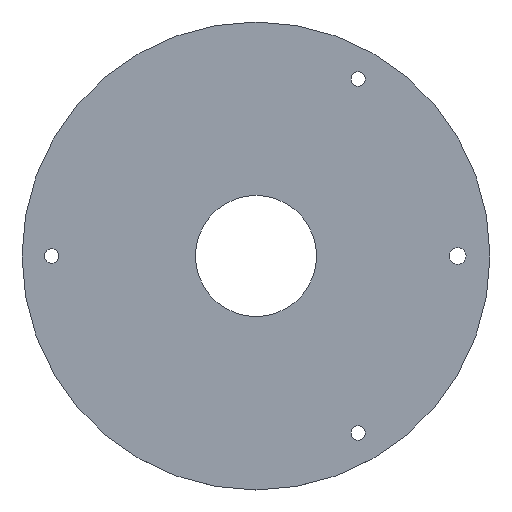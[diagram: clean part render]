
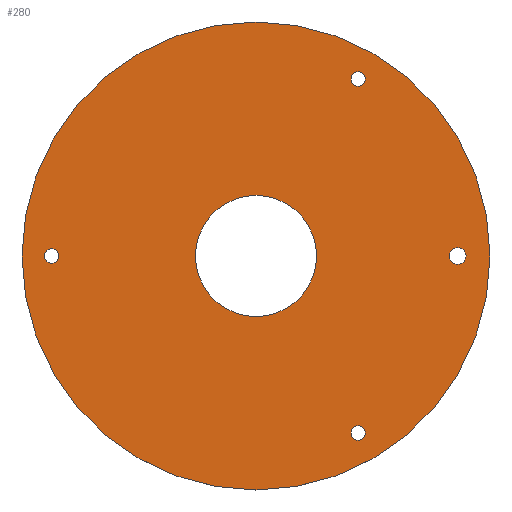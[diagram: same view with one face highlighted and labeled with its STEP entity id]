
A CAD part, top view. The second image highlights one B-rep face of the part: STEP entity #280.
In plain terms, the highlighted planar face has unit normal (0, 0, 1).
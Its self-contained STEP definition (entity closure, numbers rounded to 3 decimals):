
#24 = VERTEX_POINT('',#25);
#25 = CARTESIAN_POINT('',(166.,0.,4.));
#32 = CYLINDRICAL_SURFACE('',#33,166.);
#33 = AXIS2_PLACEMENT_3D('',#34,#35,#36);
#34 = CARTESIAN_POINT('',(0.,0.,0.));
#35 = DIRECTION('',(-0.,-0.,-1.));
#36 = DIRECTION('',(1.,0.,0.));
#51 = EDGE_CURVE('',#24,#24,#52,.T.);
#52 = SURFACE_CURVE('',#53,(#58,#65),.PCURVE_S1.);
#53 = CIRCLE('',#54,166.);
#54 = AXIS2_PLACEMENT_3D('',#55,#56,#57);
#55 = CARTESIAN_POINT('',(0.,0.,4.));
#56 = DIRECTION('',(0.,0.,1.));
#57 = DIRECTION('',(1.,0.,0.));
#58 = PCURVE('',#32,#59);
#59 = DEFINITIONAL_REPRESENTATION('',(#60),#64);
#60 = LINE('',#61,#62);
#61 = CARTESIAN_POINT('',(-0.,-4.));
#62 = VECTOR('',#63,1.);
#63 = DIRECTION('',(-1.,0.));
#64 = ( GEOMETRIC_REPRESENTATION_CONTEXT(2) 
PARAMETRIC_REPRESENTATION_CONTEXT() REPRESENTATION_CONTEXT('2D SPACE',''
  ) );
#65 = PCURVE('',#66,#71);
#66 = PLANE('',#67);
#67 = AXIS2_PLACEMENT_3D('',#68,#69,#70);
#68 = CARTESIAN_POINT('',(0.,0.,4.));
#69 = DIRECTION('',(0.,0.,1.));
#70 = DIRECTION('',(1.,0.,-0.));
#71 = DEFINITIONAL_REPRESENTATION('',(#72),#76);
#72 = CIRCLE('',#73,166.);
#73 = AXIS2_PLACEMENT_2D('',#74,#75);
#74 = CARTESIAN_POINT('',(0.,0.));
#75 = DIRECTION('',(1.,0.));
#76 = ( GEOMETRIC_REPRESENTATION_CONTEXT(2) 
PARAMETRIC_REPRESENTATION_CONTEXT() REPRESENTATION_CONTEXT('2D SPACE',''
  ) );
#133 = CYLINDRICAL_SURFACE('',#134,5.1);
#134 = AXIS2_PLACEMENT_3D('',#135,#136,#137);
#135 = CARTESIAN_POINT('',(72.5,-125.574,4.));
#136 = DIRECTION('',(0.,0.,-1.));
#137 = DIRECTION('',(-1.,0.,0.));
#168 = CYLINDRICAL_SURFACE('',#169,5.1);
#169 = AXIS2_PLACEMENT_3D('',#170,#171,#172);
#170 = CARTESIAN_POINT('',(-145.,0.,4.));
#171 = DIRECTION('',(0.,0.,-1.));
#172 = DIRECTION('',(-1.,0.,0.));
#199 = CYLINDRICAL_SURFACE('',#200,43.);
#200 = AXIS2_PLACEMENT_3D('',#201,#202,#203);
#201 = CARTESIAN_POINT('',(0.,0.,-328.));
#202 = DIRECTION('',(-0.,-0.,-1.));
#203 = DIRECTION('',(1.,0.,0.));
#234 = CYLINDRICAL_SURFACE('',#235,6.);
#235 = AXIS2_PLACEMENT_3D('',#236,#237,#238);
#236 = CARTESIAN_POINT('',(143.,0.,4.));
#237 = DIRECTION('',(0.,0.,-1.));
#238 = DIRECTION('',(-1.,0.,0.));
#269 = CYLINDRICAL_SURFACE('',#270,5.1);
#270 = AXIS2_PLACEMENT_3D('',#271,#272,#273);
#271 = CARTESIAN_POINT('',(72.5,125.574,4.));
#272 = DIRECTION('',(0.,0.,-1.));
#273 = DIRECTION('',(-1.,0.,0.));
#280 = ADVANCED_FACE('',(#281,#284,#314,#344,#374,#404),#66,.T.);
#281 = FACE_BOUND('',#282,.T.);
#282 = EDGE_LOOP('',(#283));
#283 = ORIENTED_EDGE('',*,*,#51,.T.);
#284 = FACE_BOUND('',#285,.T.);
#285 = EDGE_LOOP('',(#286));
#286 = ORIENTED_EDGE('',*,*,#287,.T.);
#287 = EDGE_CURVE('',#288,#288,#290,.T.);
#288 = VERTEX_POINT('',#289);
#289 = CARTESIAN_POINT('',(67.4,-125.574,4.));
#290 = SURFACE_CURVE('',#291,(#296,#307),.PCURVE_S1.);
#291 = CIRCLE('',#292,5.1);
#292 = AXIS2_PLACEMENT_3D('',#293,#294,#295);
#293 = CARTESIAN_POINT('',(72.5,-125.574,4.));
#294 = DIRECTION('',(0.,0.,-1.));
#295 = DIRECTION('',(-1.,0.,0.));
#296 = PCURVE('',#66,#297);
#297 = DEFINITIONAL_REPRESENTATION('',(#298),#306);
#298 = ( BOUNDED_CURVE() B_SPLINE_CURVE(2,(#299,#300,#301,#302,#303,#304
,#305),.UNSPECIFIED.,.T.,.F.) B_SPLINE_CURVE_WITH_KNOTS((1,2,2,2,2,1),(
    -2.094,0.,2.094,4.189,6.283,
8.378),.UNSPECIFIED.) CURVE() GEOMETRIC_REPRESENTATION_ITEM() 
RATIONAL_B_SPLINE_CURVE((1.,0.5,1.,0.5,1.,0.5,1.)) REPRESENTATION_ITEM(
  '') );
#299 = CARTESIAN_POINT('',(67.4,-125.574));
#300 = CARTESIAN_POINT('',(67.4,-116.74));
#301 = CARTESIAN_POINT('',(75.05,-121.157));
#302 = CARTESIAN_POINT('',(82.7,-125.574));
#303 = CARTESIAN_POINT('',(75.05,-129.99));
#304 = CARTESIAN_POINT('',(67.4,-134.407));
#305 = CARTESIAN_POINT('',(67.4,-125.574));
#306 = ( GEOMETRIC_REPRESENTATION_CONTEXT(2) 
PARAMETRIC_REPRESENTATION_CONTEXT() REPRESENTATION_CONTEXT('2D SPACE',''
  ) );
#307 = PCURVE('',#133,#308);
#308 = DEFINITIONAL_REPRESENTATION('',(#309),#313);
#309 = LINE('',#310,#311);
#310 = CARTESIAN_POINT('',(0.,0.));
#311 = VECTOR('',#312,1.);
#312 = DIRECTION('',(1.,0.));
#313 = ( GEOMETRIC_REPRESENTATION_CONTEXT(2) 
PARAMETRIC_REPRESENTATION_CONTEXT() REPRESENTATION_CONTEXT('2D SPACE',''
  ) );
#314 = FACE_BOUND('',#315,.T.);
#315 = EDGE_LOOP('',(#316));
#316 = ORIENTED_EDGE('',*,*,#317,.T.);
#317 = EDGE_CURVE('',#318,#318,#320,.T.);
#318 = VERTEX_POINT('',#319);
#319 = CARTESIAN_POINT('',(-150.1,0.,4.));
#320 = SURFACE_CURVE('',#321,(#326,#337),.PCURVE_S1.);
#321 = CIRCLE('',#322,5.1);
#322 = AXIS2_PLACEMENT_3D('',#323,#324,#325);
#323 = CARTESIAN_POINT('',(-145.,0.,4.));
#324 = DIRECTION('',(0.,0.,-1.));
#325 = DIRECTION('',(-1.,0.,0.));
#326 = PCURVE('',#66,#327);
#327 = DEFINITIONAL_REPRESENTATION('',(#328),#336);
#328 = ( BOUNDED_CURVE() B_SPLINE_CURVE(2,(#329,#330,#331,#332,#333,#334
,#335),.UNSPECIFIED.,.T.,.F.) B_SPLINE_CURVE_WITH_KNOTS((1,2,2,2,2,1),(
    -2.094,0.,2.094,4.189,6.283,
8.378),.UNSPECIFIED.) CURVE() GEOMETRIC_REPRESENTATION_ITEM() 
RATIONAL_B_SPLINE_CURVE((1.,0.5,1.,0.5,1.,0.5,1.)) REPRESENTATION_ITEM(
  '') );
#329 = CARTESIAN_POINT('',(-150.1,0.));
#330 = CARTESIAN_POINT('',(-150.1,8.833));
#331 = CARTESIAN_POINT('',(-142.45,4.417));
#332 = CARTESIAN_POINT('',(-134.8,0.));
#333 = CARTESIAN_POINT('',(-142.45,-4.417));
#334 = CARTESIAN_POINT('',(-150.1,-8.833));
#335 = CARTESIAN_POINT('',(-150.1,0.));
#336 = ( GEOMETRIC_REPRESENTATION_CONTEXT(2) 
PARAMETRIC_REPRESENTATION_CONTEXT() REPRESENTATION_CONTEXT('2D SPACE',''
  ) );
#337 = PCURVE('',#168,#338);
#338 = DEFINITIONAL_REPRESENTATION('',(#339),#343);
#339 = LINE('',#340,#341);
#340 = CARTESIAN_POINT('',(0.,0.));
#341 = VECTOR('',#342,1.);
#342 = DIRECTION('',(1.,0.));
#343 = ( GEOMETRIC_REPRESENTATION_CONTEXT(2) 
PARAMETRIC_REPRESENTATION_CONTEXT() REPRESENTATION_CONTEXT('2D SPACE',''
  ) );
#344 = FACE_BOUND('',#345,.T.);
#345 = EDGE_LOOP('',(#346));
#346 = ORIENTED_EDGE('',*,*,#347,.T.);
#347 = EDGE_CURVE('',#348,#348,#350,.T.);
#348 = VERTEX_POINT('',#349);
#349 = CARTESIAN_POINT('',(43.,0.,4.));
#350 = SURFACE_CURVE('',#351,(#356,#367),.PCURVE_S1.);
#351 = CIRCLE('',#352,43.);
#352 = AXIS2_PLACEMENT_3D('',#353,#354,#355);
#353 = CARTESIAN_POINT('',(0.,0.,4.));
#354 = DIRECTION('',(0.,0.,-1.));
#355 = DIRECTION('',(1.,0.,0.));
#356 = PCURVE('',#66,#357);
#357 = DEFINITIONAL_REPRESENTATION('',(#358),#366);
#358 = ( BOUNDED_CURVE() B_SPLINE_CURVE(2,(#359,#360,#361,#362,#363,#364
,#365),.UNSPECIFIED.,.T.,.F.) B_SPLINE_CURVE_WITH_KNOTS((1,2,2,2,2,1),(
    -2.094,0.,2.094,4.189,6.283,
8.378),.UNSPECIFIED.) CURVE() GEOMETRIC_REPRESENTATION_ITEM() 
RATIONAL_B_SPLINE_CURVE((1.,0.5,1.,0.5,1.,0.5,1.)) REPRESENTATION_ITEM(
  '') );
#359 = CARTESIAN_POINT('',(43.,0.));
#360 = CARTESIAN_POINT('',(43.,-74.478));
#361 = CARTESIAN_POINT('',(-21.5,-37.239));
#362 = CARTESIAN_POINT('',(-86.,0.));
#363 = CARTESIAN_POINT('',(-21.5,37.239));
#364 = CARTESIAN_POINT('',(43.,74.478));
#365 = CARTESIAN_POINT('',(43.,0.));
#366 = ( GEOMETRIC_REPRESENTATION_CONTEXT(2) 
PARAMETRIC_REPRESENTATION_CONTEXT() REPRESENTATION_CONTEXT('2D SPACE',''
  ) );
#367 = PCURVE('',#199,#368);
#368 = DEFINITIONAL_REPRESENTATION('',(#369),#373);
#369 = LINE('',#370,#371);
#370 = CARTESIAN_POINT('',(-6.283,-332.));
#371 = VECTOR('',#372,1.);
#372 = DIRECTION('',(1.,-0.));
#373 = ( GEOMETRIC_REPRESENTATION_CONTEXT(2) 
PARAMETRIC_REPRESENTATION_CONTEXT() REPRESENTATION_CONTEXT('2D SPACE',''
  ) );
#374 = FACE_BOUND('',#375,.T.);
#375 = EDGE_LOOP('',(#376));
#376 = ORIENTED_EDGE('',*,*,#377,.T.);
#377 = EDGE_CURVE('',#378,#378,#380,.T.);
#378 = VERTEX_POINT('',#379);
#379 = CARTESIAN_POINT('',(137.,0.,4.));
#380 = SURFACE_CURVE('',#381,(#386,#397),.PCURVE_S1.);
#381 = CIRCLE('',#382,6.);
#382 = AXIS2_PLACEMENT_3D('',#383,#384,#385);
#383 = CARTESIAN_POINT('',(143.,0.,4.));
#384 = DIRECTION('',(0.,0.,-1.));
#385 = DIRECTION('',(-1.,0.,0.));
#386 = PCURVE('',#66,#387);
#387 = DEFINITIONAL_REPRESENTATION('',(#388),#396);
#388 = ( BOUNDED_CURVE() B_SPLINE_CURVE(2,(#389,#390,#391,#392,#393,#394
,#395),.UNSPECIFIED.,.T.,.F.) B_SPLINE_CURVE_WITH_KNOTS((1,2,2,2,2,1),(
    -2.094,0.,2.094,4.189,6.283,
8.378),.UNSPECIFIED.) CURVE() GEOMETRIC_REPRESENTATION_ITEM() 
RATIONAL_B_SPLINE_CURVE((1.,0.5,1.,0.5,1.,0.5,1.)) REPRESENTATION_ITEM(
  '') );
#389 = CARTESIAN_POINT('',(137.,0.));
#390 = CARTESIAN_POINT('',(137.,10.392));
#391 = CARTESIAN_POINT('',(146.,5.196));
#392 = CARTESIAN_POINT('',(155.,0.));
#393 = CARTESIAN_POINT('',(146.,-5.196));
#394 = CARTESIAN_POINT('',(137.,-10.392));
#395 = CARTESIAN_POINT('',(137.,0.));
#396 = ( GEOMETRIC_REPRESENTATION_CONTEXT(2) 
PARAMETRIC_REPRESENTATION_CONTEXT() REPRESENTATION_CONTEXT('2D SPACE',''
  ) );
#397 = PCURVE('',#234,#398);
#398 = DEFINITIONAL_REPRESENTATION('',(#399),#403);
#399 = LINE('',#400,#401);
#400 = CARTESIAN_POINT('',(0.,0.));
#401 = VECTOR('',#402,1.);
#402 = DIRECTION('',(1.,0.));
#403 = ( GEOMETRIC_REPRESENTATION_CONTEXT(2) 
PARAMETRIC_REPRESENTATION_CONTEXT() REPRESENTATION_CONTEXT('2D SPACE',''
  ) );
#404 = FACE_BOUND('',#405,.T.);
#405 = EDGE_LOOP('',(#406));
#406 = ORIENTED_EDGE('',*,*,#407,.T.);
#407 = EDGE_CURVE('',#408,#408,#410,.T.);
#408 = VERTEX_POINT('',#409);
#409 = CARTESIAN_POINT('',(67.4,125.574,4.));
#410 = SURFACE_CURVE('',#411,(#416,#427),.PCURVE_S1.);
#411 = CIRCLE('',#412,5.1);
#412 = AXIS2_PLACEMENT_3D('',#413,#414,#415);
#413 = CARTESIAN_POINT('',(72.5,125.574,4.));
#414 = DIRECTION('',(0.,0.,-1.));
#415 = DIRECTION('',(-1.,0.,0.));
#416 = PCURVE('',#66,#417);
#417 = DEFINITIONAL_REPRESENTATION('',(#418),#426);
#418 = ( BOUNDED_CURVE() B_SPLINE_CURVE(2,(#419,#420,#421,#422,#423,#424
,#425),.UNSPECIFIED.,.T.,.F.) B_SPLINE_CURVE_WITH_KNOTS((1,2,2,2,2,1),(
    -2.094,0.,2.094,4.189,6.283,
8.378),.UNSPECIFIED.) CURVE() GEOMETRIC_REPRESENTATION_ITEM() 
RATIONAL_B_SPLINE_CURVE((1.,0.5,1.,0.5,1.,0.5,1.)) REPRESENTATION_ITEM(
  '') );
#419 = CARTESIAN_POINT('',(67.4,125.574));
#420 = CARTESIAN_POINT('',(67.4,134.407));
#421 = CARTESIAN_POINT('',(75.05,129.99));
#422 = CARTESIAN_POINT('',(82.7,125.574));
#423 = CARTESIAN_POINT('',(75.05,121.157));
#424 = CARTESIAN_POINT('',(67.4,116.74));
#425 = CARTESIAN_POINT('',(67.4,125.574));
#426 = ( GEOMETRIC_REPRESENTATION_CONTEXT(2) 
PARAMETRIC_REPRESENTATION_CONTEXT() REPRESENTATION_CONTEXT('2D SPACE',''
  ) );
#427 = PCURVE('',#269,#428);
#428 = DEFINITIONAL_REPRESENTATION('',(#429),#433);
#429 = LINE('',#430,#431);
#430 = CARTESIAN_POINT('',(0.,0.));
#431 = VECTOR('',#432,1.);
#432 = DIRECTION('',(1.,0.));
#433 = ( GEOMETRIC_REPRESENTATION_CONTEXT(2) 
PARAMETRIC_REPRESENTATION_CONTEXT() REPRESENTATION_CONTEXT('2D SPACE',''
  ) );
